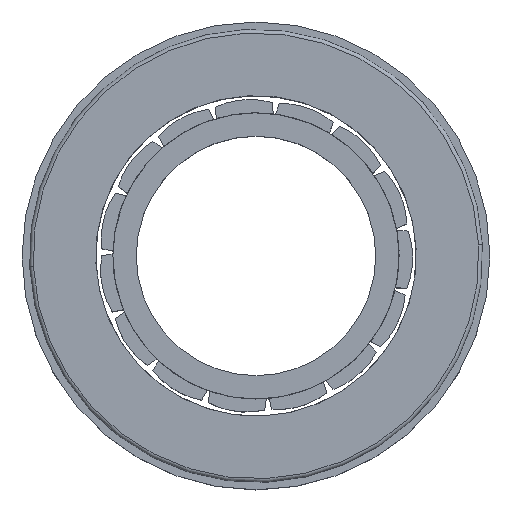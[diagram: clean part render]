
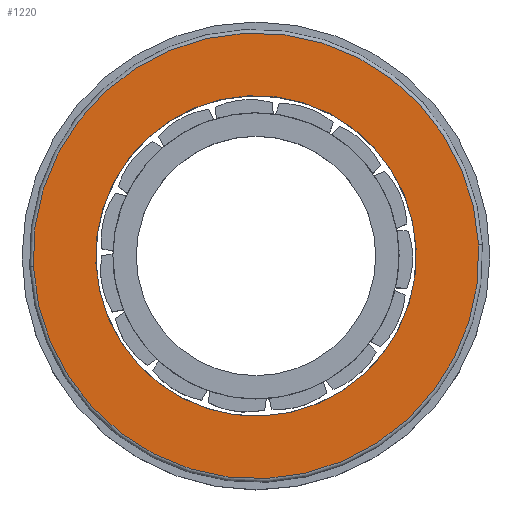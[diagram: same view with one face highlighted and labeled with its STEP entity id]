
A CAD part, top view. The second image highlights one B-rep face of the part: STEP entity #1220.
In plain terms, the highlighted planar face has unit normal (0, 0, 1).
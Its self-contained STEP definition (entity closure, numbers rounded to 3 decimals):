
#50 = CARTESIAN_POINT ( 'NONE',  ( 0., 0., 9. ) ) ;
#145 = DIRECTION ( 'NONE',  ( 1., 0., 0. ) ) ;
#159 = CIRCLE ( 'NONE', #696, 60.5 ) ;
#208 = CARTESIAN_POINT ( 'NONE',  ( 0., 0., 9. ) ) ;
#410 = EDGE_LOOP ( 'NONE', ( #1228, #686 ) ) ;
#504 = CARTESIAN_POINT ( 'NONE',  ( 0., 0., 9. ) ) ;
#536 = AXIS2_PLACEMENT_3D ( 'NONE', #208, #1825, #1225 ) ;
#607 = DIRECTION ( 'NONE',  ( 0., 0., 1. ) ) ;
#631 = VERTEX_POINT ( 'NONE', #1124 ) ;
#652 = EDGE_CURVE ( 'NONE', #631, #2133, #1629, .T. ) ;
#686 = ORIENTED_EDGE ( 'NONE', *, *, #1931, .T. ) ;
#696 = AXIS2_PLACEMENT_3D ( 'NONE', #50, #607, #2007 ) ;
#804 = PLANE ( 'NONE',  #536 ) ;
#852 = VERTEX_POINT ( 'NONE', #1018 ) ;
#919 = CIRCLE ( 'NONE', #2409, 43.5 ) ;
#920 = AXIS2_PLACEMENT_3D ( 'NONE', #1876, #2509, #1319 ) ;
#938 = DIRECTION ( 'NONE',  ( 0., 0., 1. ) ) ;
#946 = CARTESIAN_POINT ( 'NONE',  ( 0., 0., 9. ) ) ;
#1018 = CARTESIAN_POINT ( 'NONE',  ( 60.5, 0., 9. ) ) ;
#1043 = ORIENTED_EDGE ( 'NONE', *, *, #1633, .F. ) ;
#1124 = CARTESIAN_POINT ( 'NONE',  ( 43.5, 0., 9. ) ) ;
#1151 = CARTESIAN_POINT ( 'NONE',  ( -43.5, 0., 9. ) ) ;
#1220 = ADVANCED_FACE ( 'NONE', ( #1972, #2330 ), #804, .T. ) ;
#1225 = DIRECTION ( 'NONE',  ( 1., 0., 0. ) ) ;
#1228 = ORIENTED_EDGE ( 'NONE', *, *, #1313, .T. ) ;
#1296 = AXIS2_PLACEMENT_3D ( 'NONE', #946, #938, #145 ) ;
#1300 = CIRCLE ( 'NONE', #920, 60.5 ) ;
#1313 = EDGE_CURVE ( 'NONE', #852, #1497, #159, .T. ) ;
#1319 = DIRECTION ( 'NONE',  ( 1., 0., 0. ) ) ;
#1497 = VERTEX_POINT ( 'NONE', #2040 ) ;
#1629 = CIRCLE ( 'NONE', #1296, 43.5 ) ;
#1633 = EDGE_CURVE ( 'NONE', #2133, #631, #919, .T. ) ;
#1718 = DIRECTION ( 'NONE',  ( 1., 0., 0. ) ) ;
#1825 = DIRECTION ( 'NONE',  ( 0., 0., 1. ) ) ;
#1876 = CARTESIAN_POINT ( 'NONE',  ( 0., 0., 9. ) ) ;
#1931 = EDGE_CURVE ( 'NONE', #1497, #852, #1300, .T. ) ;
#1972 = FACE_OUTER_BOUND ( 'NONE', #410, .T. ) ;
#2007 = DIRECTION ( 'NONE',  ( 1., 0., 0. ) ) ;
#2040 = CARTESIAN_POINT ( 'NONE',  ( -60.5, 0., 9. ) ) ;
#2133 = VERTEX_POINT ( 'NONE', #1151 ) ;
#2223 = ORIENTED_EDGE ( 'NONE', *, *, #652, .F. ) ;
#2290 = EDGE_LOOP ( 'NONE', ( #1043, #2223 ) ) ;
#2330 = FACE_BOUND ( 'NONE', #2290, .T. ) ;
#2409 = AXIS2_PLACEMENT_3D ( 'NONE', #504, #2492, #1718 ) ;
#2492 = DIRECTION ( 'NONE',  ( 0., 0., 1. ) ) ;
#2509 = DIRECTION ( 'NONE',  ( 0., 0., 1. ) ) ;
